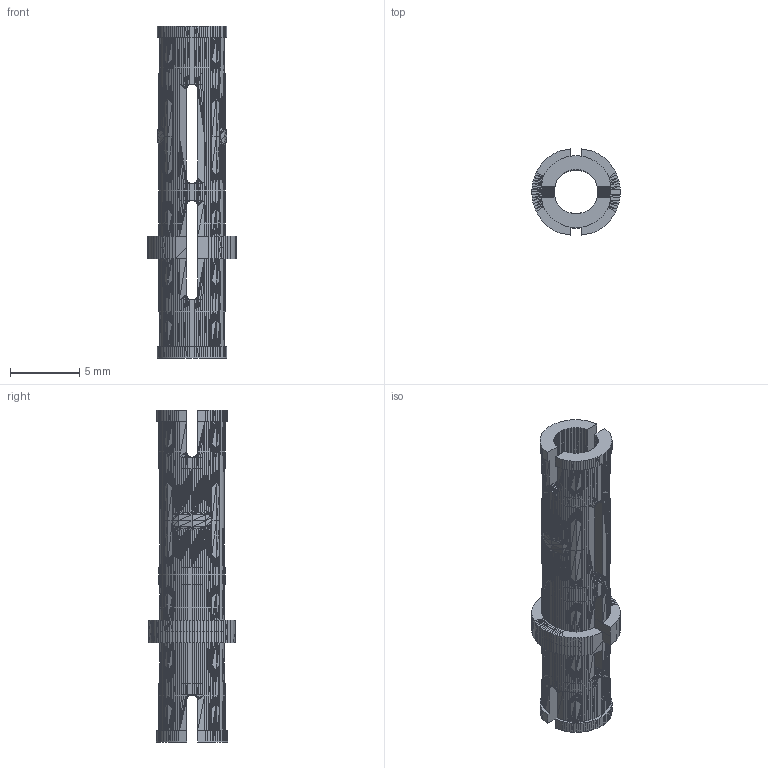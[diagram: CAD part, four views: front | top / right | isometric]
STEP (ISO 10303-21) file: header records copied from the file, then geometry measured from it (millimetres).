
FILE_DESCRIPTION(('Open CASCADE Model'),'2;1');
FILE_NAME('Open CASCADE Shape Model','2026-10-27T01:04:15',('Author'),( 'Open CASCADE'),'Open CASCADE STEP processor 7.9','Open CASCADE 7.9' ,'Unknown');
FILE_SCHEMA(('AUTOMOTIVE_DESIGN { 1 0 10303 214 1 1 1 1 }'));
Products named in the file (1): Open CASCADE STEP translator 7.9 1
Bounding box: 6.39 x 6.24 x 24 mm (x, y, z)
Volume: 241.4 mm3; surface area: 691.8 mm2
Topology: 1 solids, 2 shells, 8713 faces, 14987 edges, 6204 vertices
Faces by surface type: plane 8713
Entity records: 381876 total; most frequent: DIRECTION 62389, CARTESIAN_POINT 59880, LINE 44961, VECTOR 44961, ORIENTED_EDGE 29974, PCURVE 29974, DEFINITIONAL_REPRESENTATION 29974, EDGE_CURVE 14987
